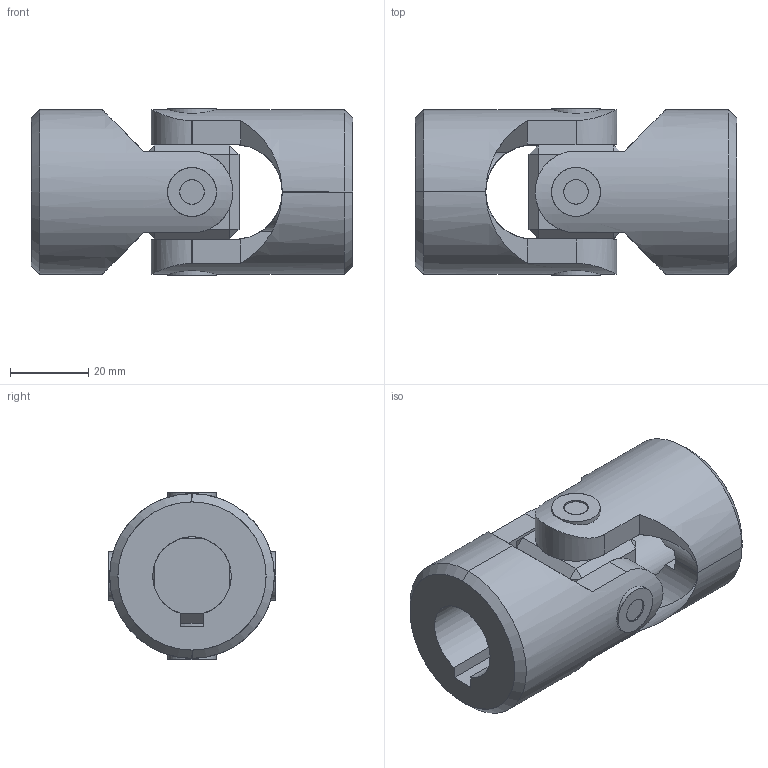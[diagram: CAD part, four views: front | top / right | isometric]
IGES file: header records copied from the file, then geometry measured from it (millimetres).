
Start section: SolidWorks IGES file using analytic representation for surfaces
Global section: file name: C:\Users\IanO\Desktop\R3690_v2\R3690_v2_20231020_IGES\R3690.020-KW.igs; native system: SolidWorks 2019; preprocessor: SolidWorks 2019; author: IanO; date: 231020.152521; units: millimetre
Bounding box: 82 x 42.84 x 42.84 mm (x, y, z)
Surface area: 26199 mm2 (no closed solid volume)
Topology: 0 solids, 0 shells, 110 faces, 2324 edges, 2324 vertices
Faces by surface type: bspline 62, revolution 48
